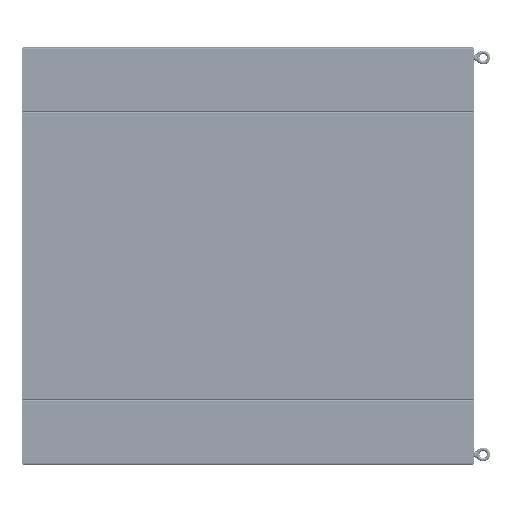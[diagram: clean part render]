
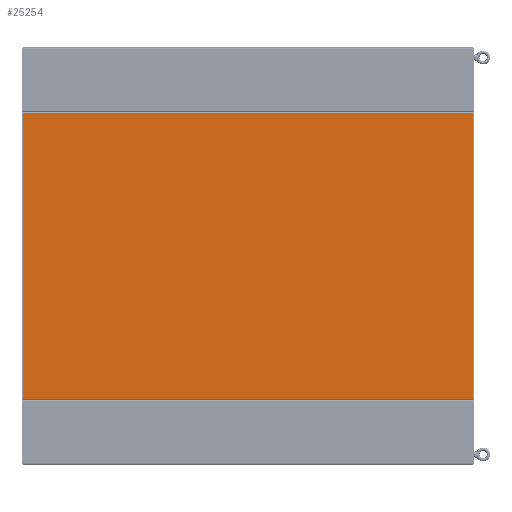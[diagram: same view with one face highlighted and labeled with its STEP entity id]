
A CAD part, left-side view. The second image highlights one B-rep face of the part: STEP entity #25254.
In plain terms, the highlighted planar face has unit normal (-1, 0, 0) as drawn and (0, 0, -1) by its records, which use the part's own axes.
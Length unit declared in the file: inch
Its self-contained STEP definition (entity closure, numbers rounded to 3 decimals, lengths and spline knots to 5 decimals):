
#24778=DIRECTION('',(0.,-1.,0.));
#24779=VECTOR('',#24778,83.75);
#24780=CARTESIAN_POINT('',(-26.5,0.,-0.125));
#24781=LINE('',#24780,#24779);
#24793=DIRECTION('',(1.,0.,0.));
#24794=VECTOR('',#24793,53.);
#24795=CARTESIAN_POINT('',(-26.5,-83.75,-0.125));
#24796=LINE('',#24795,#24794);
#24800=DIRECTION('',(-1.,0.,0.));
#24801=VECTOR('',#24800,53.);
#24802=CARTESIAN_POINT('',(26.5,0.,-0.125));
#24803=LINE('',#24802,#24801);
#24836=DIRECTION('',(0.,1.,0.));
#24837=VECTOR('',#24836,83.75);
#24838=CARTESIAN_POINT('',(26.5,-83.75,-0.125));
#24839=LINE('',#24838,#24837);
#25029=CARTESIAN_POINT('',(-26.5,-83.75,-0.125));
#25030=VERTEX_POINT('',#25029);
#25031=CARTESIAN_POINT('',(-26.5,0.,-0.125));
#25032=VERTEX_POINT('',#25031);
#25045=CARTESIAN_POINT('',(26.5,0.,-0.125));
#25046=VERTEX_POINT('',#25045);
#25047=CARTESIAN_POINT('',(26.5,-83.75,-0.125));
#25048=VERTEX_POINT('',#25047);
#25240=CARTESIAN_POINT('',(0.,0.,-0.125));
#25241=DIRECTION('',(0.,0.,1.));
#25242=DIRECTION('',(1.,0.,0.));
#25243=AXIS2_PLACEMENT_3D('',#25240,#25241,#25242);
#25244=PLANE('',#25243);
#25245=ORIENTED_EDGE('',*,*,#25233,.T.);
#25247=ORIENTED_EDGE('',*,*,#25246,.T.);
#25249=ORIENTED_EDGE('',*,*,#25248,.T.);
#25251=ORIENTED_EDGE('',*,*,#25250,.T.);
#25252=EDGE_LOOP('',(#25245,#25247,#25249,#25251));
#25253=FACE_OUTER_BOUND('',#25252,.F.);
#25233=EDGE_CURVE('',#25032,#25030,#24781,.T.);
#25246=EDGE_CURVE('',#25030,#25048,#24796,.T.);
#25248=EDGE_CURVE('',#25048,#25046,#24839,.T.);
#25250=EDGE_CURVE('',#25046,#25032,#24803,.T.);
#25254=ADVANCED_FACE('',(#25253),#25244,.F.);
